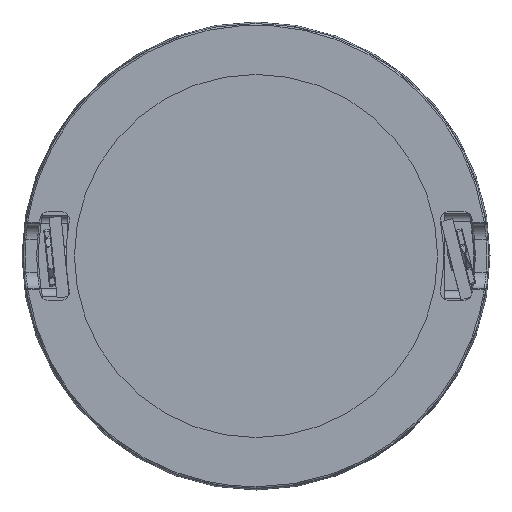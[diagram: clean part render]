
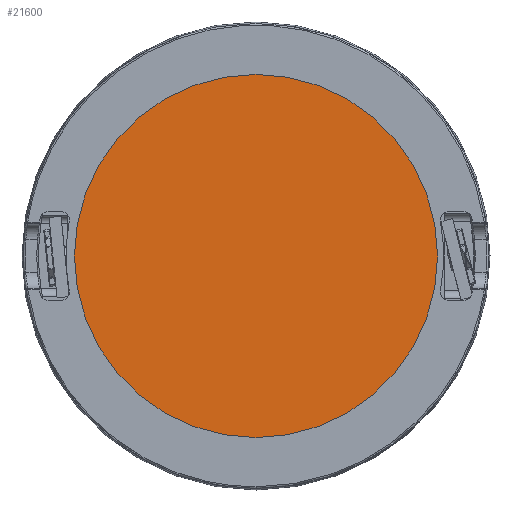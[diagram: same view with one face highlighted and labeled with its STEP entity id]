
A CAD part, front view. The second image highlights one B-rep face of the part: STEP entity #21600.
In plain terms, the highlighted planar face has unit normal (0, -1, 0).
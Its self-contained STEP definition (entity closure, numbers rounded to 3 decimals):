
#1543 = PLANE ( 'NONE',  #64167 ) ;
#2512 = EDGE_LOOP ( 'NONE', ( #29919, #69082 ) ) ;
#17142 = VERTEX_POINT ( 'NONE', #58366 ) ;
#19039 = FACE_OUTER_BOUND ( 'NONE', #2512, .T. ) ;
#21600 = ADVANCED_FACE ( 'NONE', ( #19039 ), #1543, .T. ) ;
#23131 = DIRECTION ( 'NONE',  ( 0., 1., 0. ) ) ;
#29906 = AXIS2_PLACEMENT_3D ( 'NONE', #85083, #39507, #92746 ) ;
#29919 = ORIENTED_EDGE ( 'NONE', *, *, #84484, .F. ) ;
#31278 = VERTEX_POINT ( 'NONE', #84724 ) ;
#32279 = CARTESIAN_POINT ( 'NONE',  ( 0., -24.08, 0. ) ) ;
#35454 = CIRCLE ( 'NONE', #50869, 22.5 ) ;
#39507 = DIRECTION ( 'NONE',  ( 0., 1., 0. ) ) ;
#39933 = DIRECTION ( 'NONE',  ( 0., 0., -1. ) ) ;
#50869 = AXIS2_PLACEMENT_3D ( 'NONE', #68769, #23131, #76443 ) ;
#58014 = EDGE_CURVE ( 'NONE', #17142, #31278, #35454, .T. ) ;
#58366 = CARTESIAN_POINT ( 'NONE',  ( 0., -24.08, 22.5 ) ) ;
#64167 = AXIS2_PLACEMENT_3D ( 'NONE', #32279, #85495, #39933 ) ;
#68769 = CARTESIAN_POINT ( 'NONE',  ( 0., -24.08, 0. ) ) ;
#69082 = ORIENTED_EDGE ( 'NONE', *, *, #58014, .F. ) ;
#76443 = DIRECTION ( 'NONE',  ( 0., 0., -1. ) ) ;
#77109 = CIRCLE ( 'NONE', #29906, 22.5 ) ;
#84484 = EDGE_CURVE ( 'NONE', #31278, #17142, #77109, .T. ) ;
#84724 = CARTESIAN_POINT ( 'NONE',  ( 0., -24.08, -22.5 ) ) ;
#85083 = CARTESIAN_POINT ( 'NONE',  ( 0., -24.08, 0. ) ) ;
#85495 = DIRECTION ( 'NONE',  ( 0., -1., 0. ) ) ;
#92746 = DIRECTION ( 'NONE',  ( 0., 0., -1. ) ) ;
